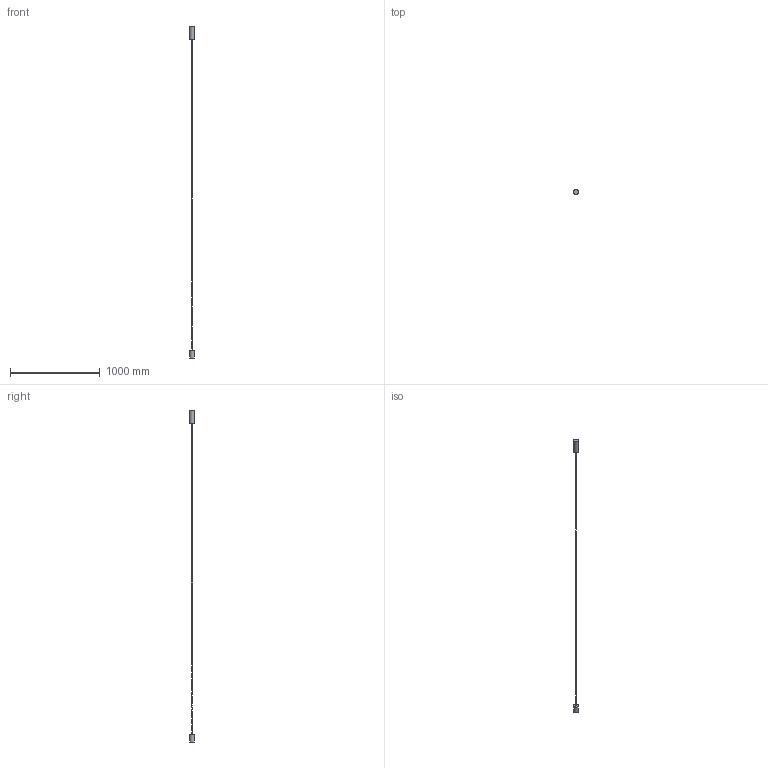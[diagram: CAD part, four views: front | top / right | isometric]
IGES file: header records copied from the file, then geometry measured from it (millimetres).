
Start section: SolidWorks IGES file using analytic representation for surfaces
Global section: file name: X:\PRODUKT\Modele 3D_WWW\_KOLEKCJE WWW\VERTIC-LED-10362\VERTIC-LED-10362.IGS; native system: SolidWorks 2021; preprocessor: SolidWorks 2021; author: gabriela.tworek; date: 221209.121403; units: millimetre
Bounding box: 55 x 55 x 3693 mm (x, y, z)
Surface area: 188399.3 mm2 (no closed solid volume)
Topology: 0 solids, 0 shells, 452 faces, 2126 edges, 2120 vertices
Faces by surface type: bspline 438, revolution 14
